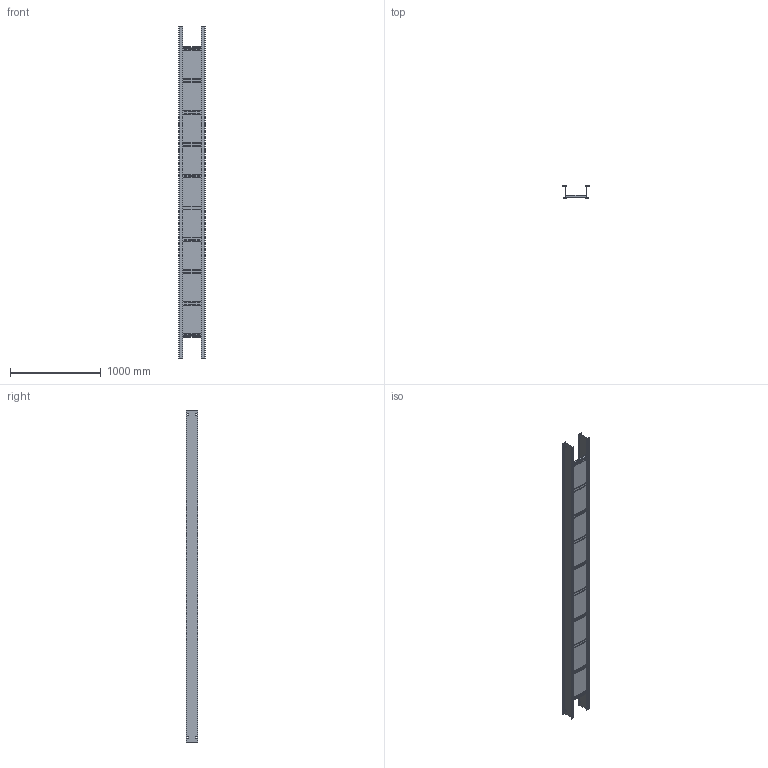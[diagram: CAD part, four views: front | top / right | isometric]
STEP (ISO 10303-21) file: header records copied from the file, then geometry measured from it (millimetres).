
FILE_DESCRIPTION((''),'2;1');
FILE_NAME('AH2509L06144_ASM','2010-02-03T',('erouzier'),(''),'PRO/ENGINEER BY PARAMETRIC TECHNOLOGY CORPORATION, 2008510','PRO/ENGINEER BY PARAMETRIC TECHNOLOGY CORPORATION, 2008510','');
FILE_SCHEMA(('CONFIG_CONTROL_DESIGN'));
Length unit declared in the file: inch
Products named in the file (13): CDS001451-007_AF3; CDS001451-007_AF4; CDS002159L9-P_AF0; CDS002159L9-P_AF1; CDS002159L9-P_AF2; CDS002159L9-P_AF3; CDS002159L9-P_AF4; CDS002159L9-P_AF5; CDS002159L9-P_AF6; CDS002159L9-P_AF7; CDS002159L9-P_AF8; CDS002159L9-P_AF9; AH2509L06144_ASM
Assembly tree (12 placements, depth 2):
  AH2509L06144_ASM
    CDS001451-007_AF3
    CDS001451-007_AF4
    CDS002159L9-P_AF0
    CDS002159L9-P_AF1
    CDS002159L9-P_AF2
    CDS002159L9-P_AF3
    CDS002159L9-P_AF4
    CDS002159L9-P_AF5
    CDS002159L9-P_AF6
    CDS002159L9-P_AF7
    CDS002159L9-P_AF8
    CDS002159L9-P_AF9
Bounding box: 289.56 x 127.89 x 3657.6 mm (x, y, z)
Volume: 3408352.3 mm3; surface area: 4367697.4 mm2
Topology: 12 solids, 13 shells, 941 faces, 2752 edges, 1836 vertices
Faces by surface type: plane 547, cylinder 394
Entity records: 31935 total; most frequent: CARTESIAN_POINT 5554, ORIENTED_EDGE 5500, DIRECTION 5472, EDGE_CURVE 2752, VECTOR 1964, LINE 1964, VERTEX_POINT 1836, AXIS2_PLACEMENT_3D 1754
